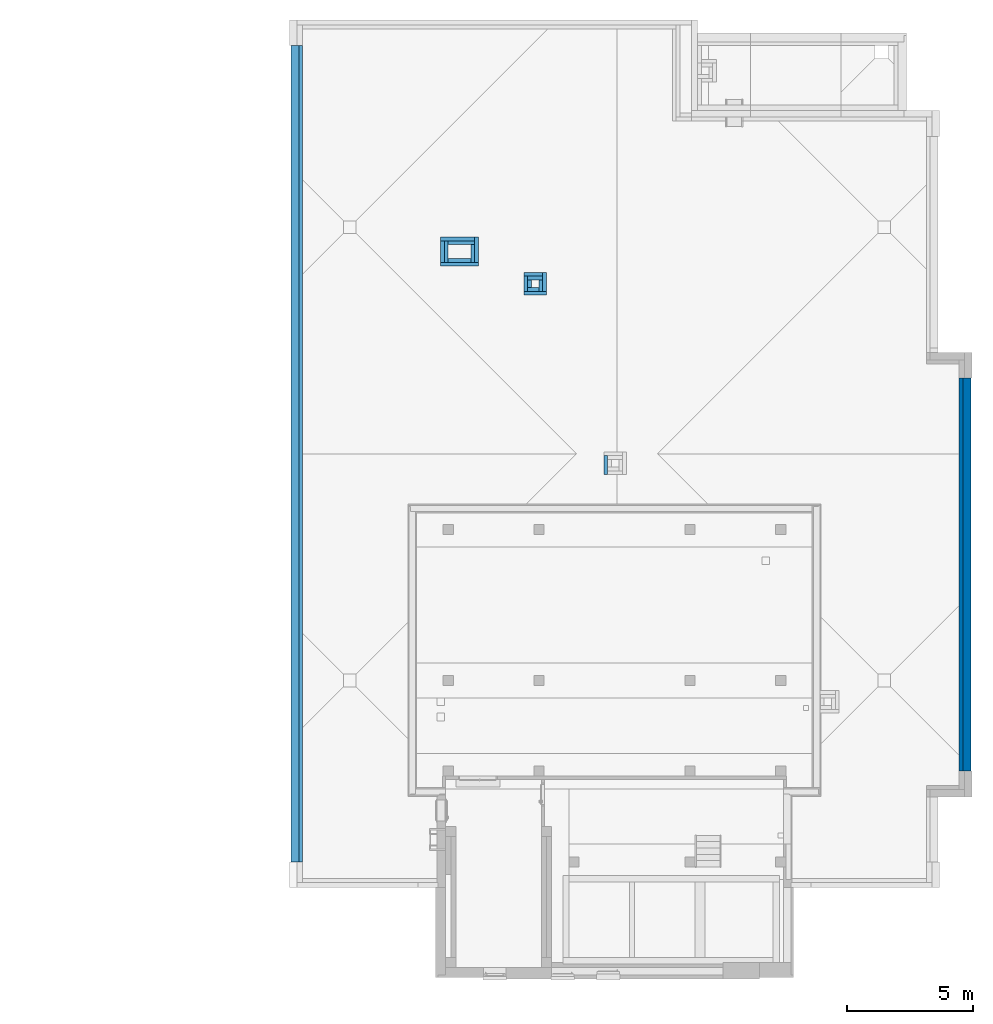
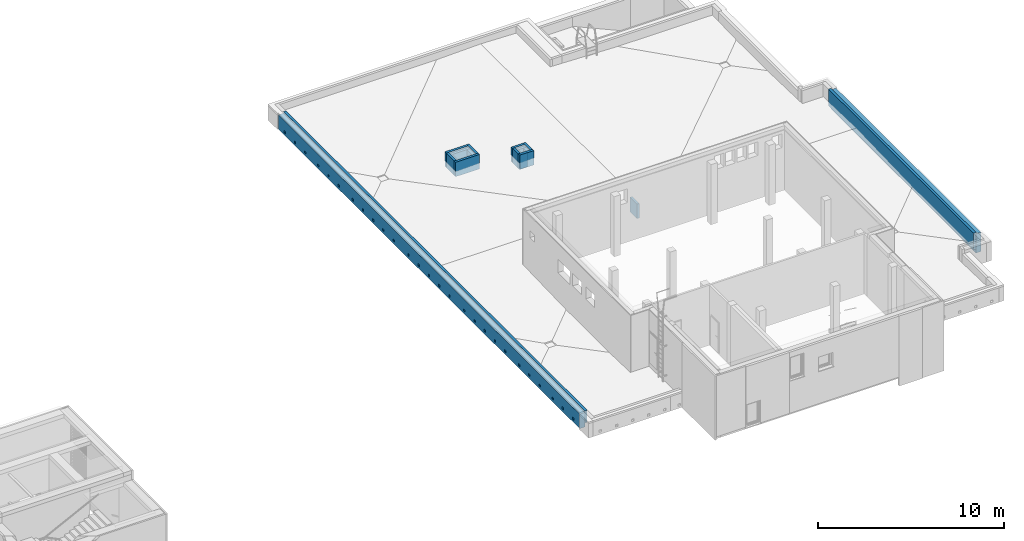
# One storey, part 6 of 17: 21 walls, 40 openings.
"""IFC4 building model written with IfcOpenShell, lengths in metres."""

from ifc_helpers import new_model, entity, si_unit, converted_unit, derived_unit, frame, frame_2d, origin, origin_with_axes, place, context, subcontext, project, spatial, polyline, rectangle, outline, extrude, material, layer, layer_set, layer_usage, element, save


model = new_model("IFC4")

# Units and contexts
model_context = context("Model", 3, precision=1e-05, world=origin())
body_context = subcontext(model_context, "Body", "Model", "MODEL_VIEW")
ifc_project = project(units=[si_unit("LENGTHUNIT", "METRE"), si_unit("AREAUNIT", "SQUARE_METRE"), si_unit("VOLUMEUNIT", "CUBIC_METRE"), si_unit("MASSUNIT", "GRAM", prefix="KILO"), converted_unit("PLANEANGLEUNIT", "DEGREE", entity("IfcPlaneAngleMeasure", 0.0174532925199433), si_unit("PLANEANGLEUNIT", "RADIAN"), dimensions=[0, 0, 0, 0, 0, 0, 0]), derived_unit("THERMALTRANSMITTANCEUNIT", [(si_unit("POWERUNIT", "WATT"), 1), (si_unit("THERMODYNAMICTEMPERATUREUNIT", "KELVIN"), -1), (si_unit("LENGTHUNIT", "METRE"), -2)]), derived_unit("VOLUMETRICFLOWRATEUNIT", [(si_unit("LENGTHUNIT", "METRE"), 3), (converted_unit("TIMEUNIT", "hour", entity("IfcTimeMeasure", 3600.0), si_unit("TIMEUNIT", "SECOND"), dimensions=[0, 0, 1, 0, 0, 0, 0]), -1), (si_unit("LENGTHUNIT", "METRE"), -1)])], contexts=[model_context])

# Site, building, storey
site_placement = place(None, origin())
site = spatial("IfcSite", under=ifc_project, at=site_placement, Name="3. ASŘ", CompositionType="ELEMENT")
building_placement = place(site_placement, origin())
building = spatial("IfcBuilding", under=site, at=building_placement, Name="Pavilon C", CompositionType="ELEMENT")
storey_placement = place(building_placement, frame((0.0, 0.0, 13.8)))
storey = spatial("IfcBuildingStorey", under=building, at=storey_placement, Name="Půdorys 5.NP", CompositionType="ELEMENT", Elevation=13.8)

# Walls
ifc_material_1 = material(Name="ZDIVO Z CDm")
ifc_layer_1 = layer(ifc_material_1, 0.150000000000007)
ifc_layer_set_1 = layer_set([ifc_layer_1])
ifc_layer_usage_1 = layer_usage(ifc_layer_set_1, "AXIS2", "POSITIVE", 0.0)
wall_1_placement = place(storey_placement, frame((34.35, 23.1, -0.1), z_axis=(0.0, 0.0, 1.0), x_axis=(0.0, -1.0, 0.0)))
element("IfcWall", 1, at=wall_1_placement, inside=storey, material=ifc_layer_usage_1, Name="ZDIVO Z CDm", context=body_context, shape_type="SweptSolid", body=[
    extrude(rectangle(XDim=0.450000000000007, YDim=0.150000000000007, at=frame_2d((0.225000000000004, 0.0750000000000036), x_axis=(1.0, 0.0))), origin_with_axes(), (0.0, 0.0, 1.0), 0.95),
])
ifc_material_2 = material(Name="ZDIVO Z CDm")
ifc_layer_2 = layer(ifc_material_2, 0.150000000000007)
ifc_layer_set_2 = layer_set([ifc_layer_2])
ifc_layer_usage_2 = layer_usage(ifc_layer_set_2, "AXIS2", "POSITIVE", 0.0)
wall_2_placement = place(storey_placement, frame((34.35, 22.8, -0.1), z_axis=(0.0, 0.0, 1.0), x_axis=(-1.0, 0.0, 0.0)))
element("IfcWall", 2, at=wall_2_placement, inside=storey, material=ifc_layer_usage_2, Name="ZDIVO Z CDm", context=body_context, shape_type="SweptSolid", body=[
    extrude(rectangle(XDim=0.450000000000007, YDim=0.150000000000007, at=frame_2d((0.225000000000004, 0.0750000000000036), x_axis=(1.0, 0.0))), origin_with_axes(), (0.0, 0.0, 1.0), 0.95),
])
ifc_material_3 = material(Name="ZDIVO Z CDm")
ifc_layer_3 = layer(ifc_material_3, 0.150000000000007)
ifc_layer_set_3 = layer_set([ifc_layer_3])
ifc_layer_usage_3 = layer_usage(ifc_layer_set_3, "AXIS2", "POSITIVE", 0.0)
wall_3_placement = place(storey_placement, frame((34.05, 22.8, -0.1), z_axis=(0.0, 0.0, 1.0), x_axis=(-4.85063840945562e-14, 1.0, 0.0)))
element("IfcWall", 3, at=wall_3_placement, inside=storey, material=ifc_layer_usage_3, Name="ZDIVO Z CDm", context=body_context, shape_type="SweptSolid", body=[
    extrude(rectangle(XDim=0.3, YDim=0.150000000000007, at=frame_2d((0.15, 0.0750000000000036), x_axis=(1.0, 0.0))), origin_with_axes(), (0.0, 0.0, 1.0), 0.95),
])
ifc_material_4 = material(Name="ZDIVO Z CDm")
ifc_layer_4 = layer(ifc_material_4, 0.150000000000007)
ifc_layer_set_4 = layer_set([ifc_layer_4])
ifc_layer_usage_4 = layer_usage(ifc_layer_set_4, "AXIS2", "POSITIVE", 0.0)
wall_4_placement = place(storey_placement, frame((33.9, 23.1, -0.1)))
element("IfcWall", 4, at=wall_4_placement, inside=storey, material=ifc_layer_usage_4, Name="ZDIVO Z CDm", context=body_context, shape_type="SweptSolid", body=[
    extrude(rectangle(XDim=0.600000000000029, YDim=0.150000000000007, at=frame_2d((0.300000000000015, 0.0750000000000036), x_axis=(1.0, 0.0))), origin_with_axes(), (0.0, 0.0, 1.0), 0.95),
])
ifc_material_5 = material(Name="ZDIVO Z CDm")
ifc_layer_5 = layer(ifc_material_5, 0.150000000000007)
ifc_layer_set_5 = layer_set([ifc_layer_5])
ifc_layer_usage_5 = layer_usage(ifc_layer_set_5, "AXIS2", "POSITIVE", 0.0)
wall_5_placement = place(storey_placement, frame((30.75, 24.5, -0.1)))
element("IfcWall", 5, at=wall_5_placement, inside=storey, material=ifc_layer_usage_5, Name="ZDIVO Z CDm", context=body_context, shape_type="SweptSolid", body=[
    extrude(rectangle(XDim=1.05000000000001, YDim=0.150000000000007, at=frame_2d((0.525000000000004, 0.0750000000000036), x_axis=(1.0, 0.0))), origin_with_axes(), (0.0, 0.0, 1.0), 0.95),
])
ifc_material_6 = material(Name="ZDIVO Z CDm")
ifc_layer_6 = layer(ifc_material_6, 0.150000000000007)
ifc_layer_set_6 = layer_set([ifc_layer_6])
ifc_layer_usage_6 = layer_usage(ifc_layer_set_6, "AXIS2", "POSITIVE", 0.0)
wall_6_placement = place(storey_placement, frame((31.65, 23.95, -0.1), z_axis=(0.0, 0.0, 1.0), x_axis=(-1.0, 0.0, 0.0)))
element("IfcWall", 6, at=wall_6_placement, inside=storey, material=ifc_layer_usage_6, Name="ZDIVO Z CDm", context=body_context, shape_type="SweptSolid", body=[
    extrude(rectangle(XDim=0.9, YDim=0.150000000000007, at=frame_2d((0.45, 0.0750000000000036), x_axis=(1.0, 0.0))), origin_with_axes(), (0.0, 0.0, 1.0), 0.95),
])
ifc_material_7 = material(Name="ZDIVO Z CDm")
ifc_layer_7 = layer(ifc_material_7, 0.150000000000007)
ifc_layer_set_7 = layer_set([ifc_layer_7])
ifc_layer_usage_7 = layer_usage(ifc_layer_set_7, "AXIS2", "POSITIVE", 0.0)
wall_7_placement = place(storey_placement, frame((30.75, 23.8, -0.1), z_axis=(0.0, 0.0, 1.0), x_axis=(0.0, 1.0, 0.0)))
element("IfcWall", 7, at=wall_7_placement, inside=storey, material=ifc_layer_usage_7, Name="ZDIVO Z CDm", context=body_context, shape_type="SweptSolid", body=[
    extrude(rectangle(XDim=0.85, YDim=0.150000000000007, at=frame_2d((0.425, 0.0750000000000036), x_axis=(1.0, 0.0))), origin_with_axes(), (0.0, 0.0, 1.0), 0.95),
])
ifc_material_8 = material(Name="ZDIVO Z CDm")
ifc_layer_8 = layer(ifc_material_8, 0.150000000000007)
ifc_layer_set_8 = layer_set([ifc_layer_8])
ifc_layer_usage_8 = layer_usage(ifc_layer_set_8, "AXIS2", "POSITIVE", 0.0)
wall_8_placement = place(storey_placement, frame((31.65, 24.5, -0.1), z_axis=(0.0, 0.0, 1.0), x_axis=(0.0, -1.0, 0.0)))
element("IfcWall", 8, at=wall_8_placement, inside=storey, material=ifc_layer_usage_8, Name="ZDIVO Z CDm", context=body_context, shape_type="SweptSolid", body=[
    extrude(rectangle(XDim=0.699999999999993, YDim=0.150000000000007, at=frame_2d((0.349999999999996, 0.0750000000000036), x_axis=(1.0, 0.0))), origin_with_axes(), (0.0, 0.0, 1.0), 0.95),
])

# Wall, openings
ifc_material_9 = material(Name="ZELEZOBETONOVÁ KCE")
ifc_layer_9 = layer(ifc_material_9, 0.32)
ifc_layer_set_9 = layer_set([ifc_layer_9])
ifc_layer_usage_9 = layer_usage(ifc_layer_set_9, "AXIS2", "POSITIVE", 0.0)
wall_9_placement = place(storey_placement, frame((24.5, 32.4, -0.1), z_axis=(0.0, 0.0, 1.0), x_axis=(-2.24566593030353e-16, -1.0, 0.0)))
wall_9 = element("IfcWall", 9, at=wall_9_placement, inside=storey, material=ifc_layer_usage_9, Name="ZELEZOBETONOVÁ KCE", context=body_context, shape_type="SweptSolid", body=[
    extrude(rectangle(XDim=32.4, YDim=0.32, at=frame_2d((16.2, 0.16), x_axis=(1.0, 0.0))), origin_with_axes(), (0.0, 0.0, 1.0), 0.95),
])
opening_1_placement = place(wall_9_placement, frame((31.775, 0.32, 0.15), z_axis=(0.0, -1.0, 0.0), x_axis=(0.0, 0.0, 1.0)))
element("IfcOpeningElement", 10, at=opening_1_placement, cuts=wall_9, Name="Prostup stěnou", ObjectType="Opening", context=body_context, shape_type="SweptSolid", body=[
    extrude(outline(polyline([(0.0, 0.15), (0.15, 0.15), (0.15, 0.0), (0.0, 0.0), (0.0, 0.15)])), origin_with_axes(), (0.0, 0.0, 1.0), 0.32),
])
opening_2_placement = place(wall_9_placement, frame((30.675, 0.32, 0.15), z_axis=(0.0, -1.0, 0.0), x_axis=(0.0, 0.0, 1.0)))
element("IfcOpeningElement", 11, at=opening_2_placement, cuts=wall_9, Name="Prostup stěnou", ObjectType="Opening", context=body_context, shape_type="SweptSolid", body=[
    extrude(outline(polyline([(0.0, 0.15), (0.15, 0.15), (0.15, 0.0), (0.0, 0.0), (0.0, 0.15)])), origin_with_axes(), (0.0, 0.0, 1.0), 0.32),
])
opening_3_placement = place(wall_9_placement, frame((29.575, 0.319999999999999, 0.15), z_axis=(0.0, -1.0, 0.0), x_axis=(0.0, 0.0, 1.0)))
element("IfcOpeningElement", 12, at=opening_3_placement, cuts=wall_9, Name="Prostup stěnou", ObjectType="Opening", context=body_context, shape_type="SweptSolid", body=[
    extrude(outline(polyline([(0.0, 0.15), (0.15, 0.15), (0.15, 0.0), (0.0, 0.0), (0.0, 0.15)])), origin_with_axes(), (0.0, 0.0, 1.0), 0.32),
])
opening_4_placement = place(wall_9_placement, frame((28.175, 0.319999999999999, 0.15), z_axis=(0.0, -1.0, 0.0), x_axis=(0.0, 0.0, 1.0)))
element("IfcOpeningElement", 13, at=opening_4_placement, cuts=wall_9, Name="Prostup stěnou", ObjectType="Opening", context=body_context, shape_type="SweptSolid", body=[
    extrude(outline(polyline([(0.0, 0.15), (0.15, 0.15), (0.15, 0.0), (0.0, 0.0), (0.0, 0.15)])), origin_with_axes(), (0.0, 0.0, 1.0), 0.32),
])
opening_5_placement = place(wall_9_placement, frame((27.075, 0.319999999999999, 0.15), z_axis=(0.0, -1.0, 0.0), x_axis=(0.0, 0.0, 1.0)))
element("IfcOpeningElement", 14, at=opening_5_placement, cuts=wall_9, Name="Prostup stěnou", ObjectType="Opening", context=body_context, shape_type="SweptSolid", body=[
    extrude(outline(polyline([(0.0, 0.15), (0.15, 0.15), (0.15, 0.0), (0.0, 0.0), (0.0, 0.15)])), origin_with_axes(), (0.0, 0.0, 1.0), 0.32),
])
opening_6_placement = place(wall_9_placement, frame((25.975, 0.319999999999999, 0.15), z_axis=(0.0, -1.0, 0.0), x_axis=(0.0, 0.0, 1.0)))
element("IfcOpeningElement", 15, at=opening_6_placement, cuts=wall_9, Name="Prostup stěnou", ObjectType="Opening", context=body_context, shape_type="SweptSolid", body=[
    extrude(outline(polyline([(0.0, 0.15), (0.15, 0.15), (0.15, 0.0), (0.0, 0.0), (0.0, 0.15)])), origin_with_axes(), (0.0, 0.0, 1.0), 0.32),
])
opening_7_placement = place(wall_9_placement, frame((24.475, 0.320000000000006, 0.15), z_axis=(0.0, -1.0, 0.0), x_axis=(0.0, 0.0, 1.0)))
element("IfcOpeningElement", 16, at=opening_7_placement, cuts=wall_9, Name="Prostup stěnou", ObjectType="Opening", context=body_context, shape_type="SweptSolid", body=[
    extrude(outline(polyline([(0.0, 0.15), (0.15, 0.15), (0.15, 0.0), (0.0, 0.0), (0.0, 0.15)])), origin_with_axes(), (0.0, 0.0, 1.0), 0.32),
])
opening_8_placement = place(wall_9_placement, frame((23.375, 0.320000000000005, 0.15), z_axis=(0.0, -1.0, 0.0), x_axis=(0.0, 0.0, 1.0)))
element("IfcOpeningElement", 17, at=opening_8_placement, cuts=wall_9, Name="Prostup stěnou", ObjectType="Opening", context=body_context, shape_type="SweptSolid", body=[
    extrude(outline(polyline([(0.0, 0.15), (0.15, 0.15), (0.15, 0.0), (0.0, 0.0), (0.0, 0.15)])), origin_with_axes(), (0.0, 0.0, 1.0), 0.32),
])
opening_9_placement = place(wall_9_placement, frame((22.275, 0.320000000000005, 0.15), z_axis=(0.0, -1.0, 0.0), x_axis=(0.0, 0.0, 1.0)))
element("IfcOpeningElement", 18, at=opening_9_placement, cuts=wall_9, Name="Prostup stěnou", ObjectType="Opening", context=body_context, shape_type="SweptSolid", body=[
    extrude(outline(polyline([(0.0, 0.15), (0.15, 0.15), (0.15, 0.0), (0.0, 0.0), (0.0, 0.15)])), origin_with_axes(), (0.0, 0.0, 1.0), 0.32),
])
opening_10_placement = place(wall_9_placement, frame((21.175, 0.320000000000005, 0.15), z_axis=(0.0, -1.0, 0.0), x_axis=(0.0, 0.0, 1.0)))
element("IfcOpeningElement", 19, at=opening_10_placement, cuts=wall_9, Name="Prostup stěnou", ObjectType="Opening", context=body_context, shape_type="SweptSolid", body=[
    extrude(outline(polyline([(0.0, 0.15), (0.15, 0.15), (0.15, 0.0), (0.0, 0.0), (0.0, 0.15)])), origin_with_axes(), (0.0, 0.0, 1.0), 0.32),
])
opening_11_placement = place(wall_9_placement, frame((20.075, 0.320000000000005, 0.15), z_axis=(0.0, -1.0, 0.0), x_axis=(0.0, 0.0, 1.0)))
element("IfcOpeningElement", 20, at=opening_11_placement, cuts=wall_9, Name="Prostup stěnou", ObjectType="Opening", context=body_context, shape_type="SweptSolid", body=[
    extrude(outline(polyline([(0.0, 0.15), (0.15, 0.15), (0.15, 0.0), (0.0, 0.0), (0.0, 0.15)])), origin_with_axes(), (0.0, 0.0, 1.0), 0.32),
])
opening_12_placement = place(wall_9_placement, frame((18.475, 0.320000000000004, 0.15), z_axis=(0.0, -1.0, 0.0), x_axis=(0.0, 0.0, 1.0)))
element("IfcOpeningElement", 21, at=opening_12_placement, cuts=wall_9, Name="Prostup stěnou", ObjectType="Opening", context=body_context, shape_type="SweptSolid", body=[
    extrude(outline(polyline([(0.0, 0.15), (0.15, 0.15), (0.15, 0.0), (0.0, 0.0), (0.0, 0.15)])), origin_with_axes(), (0.0, 0.0, 1.0), 0.32),
])
opening_13_placement = place(wall_9_placement, frame((17.375, 0.320000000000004, 0.15), z_axis=(0.0, -1.0, 0.0), x_axis=(0.0, 0.0, 1.0)))
element("IfcOpeningElement", 22, at=opening_13_placement, cuts=wall_9, Name="Prostup stěnou", ObjectType="Opening", context=body_context, shape_type="SweptSolid", body=[
    extrude(outline(polyline([(0.0, 0.15), (0.15, 0.15), (0.15, 0.0), (0.0, 0.0), (0.0, 0.15)])), origin_with_axes(), (0.0, 0.0, 1.0), 0.32),
])
opening_14_placement = place(wall_9_placement, frame((16.275, 0.320000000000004, 0.15), z_axis=(0.0, -1.0, 0.0), x_axis=(0.0, 0.0, 1.0)))
element("IfcOpeningElement", 23, at=opening_14_placement, cuts=wall_9, Name="Prostup stěnou", ObjectType="Opening", context=body_context, shape_type="SweptSolid", body=[
    extrude(outline(polyline([(0.0, 0.15), (0.15, 0.15), (0.15, 0.0), (0.0, 0.0), (0.0, 0.15)])), origin_with_axes(), (0.0, 0.0, 1.0), 0.32),
])
opening_15_placement = place(wall_9_placement, frame((15.175, 0.320000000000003, 0.15), z_axis=(0.0, -1.0, 0.0), x_axis=(0.0, 0.0, 1.0)))
element("IfcOpeningElement", 24, at=opening_15_placement, cuts=wall_9, Name="Prostup stěnou", ObjectType="Opening", context=body_context, shape_type="SweptSolid", body=[
    extrude(outline(polyline([(0.0, 0.15), (0.15, 0.15), (0.15, 0.0), (0.0, 0.0), (0.0, 0.15)])), origin_with_axes(), (0.0, 0.0, 1.0), 0.32),
])
opening_16_placement = place(wall_9_placement, frame((14.075, 0.320000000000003, 0.15), z_axis=(0.0, -1.0, 0.0), x_axis=(0.0, 0.0, 1.0)))
element("IfcOpeningElement", 25, at=opening_16_placement, cuts=wall_9, Name="Prostup stěnou", ObjectType="Opening", context=body_context, shape_type="SweptSolid", body=[
    extrude(outline(polyline([(0.0, 0.15), (0.15, 0.15), (0.15, 0.0), (0.0, 0.0), (0.0, 0.15)])), origin_with_axes(), (0.0, 0.0, 1.0), 0.32),
])
opening_17_placement = place(wall_9_placement, frame((12.475, 0.320000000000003, 0.15), z_axis=(0.0, -1.0, 0.0), x_axis=(0.0, 0.0, 1.0)))
element("IfcOpeningElement", 26, at=opening_17_placement, cuts=wall_9, Name="Prostup stěnou", ObjectType="Opening", context=body_context, shape_type="SweptSolid", body=[
    extrude(outline(polyline([(0.0, 0.15), (0.15, 0.15), (0.15, 0.0), (0.0, 0.0), (0.0, 0.15)])), origin_with_axes(), (0.0, 0.0, 1.0), 0.32),
])
opening_18_placement = place(wall_9_placement, frame((2.975, 0.320000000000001, 0.15), z_axis=(0.0, -1.0, 0.0), x_axis=(0.0, 0.0, 1.0)))
element("IfcOpeningElement", 27, at=opening_18_placement, cuts=wall_9, Name="Prostup stěnou", ObjectType="Opening", context=body_context, shape_type="SweptSolid", body=[
    extrude(outline(polyline([(0.0, 0.15), (0.15, 0.15), (0.15, 0.0), (0.0, 0.0), (0.0, 0.15)])), origin_with_axes(), (0.0, 0.0, 1.0), 0.32),
])
opening_19_placement = place(wall_9_placement, frame((4.375, 0.319999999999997, 0.15), z_axis=(0.0, -1.0, 0.0), x_axis=(0.0, 0.0, 1.0)))
element("IfcOpeningElement", 28, at=opening_19_placement, cuts=wall_9, Name="Prostup stěnou", ObjectType="Opening", context=body_context, shape_type="SweptSolid", body=[
    extrude(outline(polyline([(0.0, 0.15), (0.15, 0.15), (0.15, 0.0), (0.0, 0.0), (0.0, 0.15)])), origin_with_axes(), (0.0, 0.0, 1.0), 0.32),
])
opening_20_placement = place(wall_9_placement, frame((5.475, 0.319999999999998, 0.15), z_axis=(0.0, -1.0, 0.0), x_axis=(0.0, 0.0, 1.0)))
element("IfcOpeningElement", 29, at=opening_20_placement, cuts=wall_9, Name="Prostup stěnou", ObjectType="Opening", context=body_context, shape_type="SweptSolid", body=[
    extrude(outline(polyline([(0.0, 0.15), (0.15, 0.15), (0.15, 0.0), (0.0, 0.0), (0.0, 0.15)])), origin_with_axes(), (0.0, 0.0, 1.0), 0.32),
])
opening_21_placement = place(wall_9_placement, frame((6.575, 0.319999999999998, 0.15), z_axis=(0.0, -1.0, 0.0), x_axis=(0.0, 0.0, 1.0)))
element("IfcOpeningElement", 30, at=opening_21_placement, cuts=wall_9, Name="Prostup stěnou", ObjectType="Opening", context=body_context, shape_type="SweptSolid", body=[
    extrude(outline(polyline([(0.0, 0.15), (0.15, 0.15), (0.15, 0.0), (0.0, 0.0), (0.0, 0.15)])), origin_with_axes(), (0.0, 0.0, 1.0), 0.32),
])
opening_22_placement = place(wall_9_placement, frame((8.075, 0.320000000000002, 0.15), z_axis=(0.0, -1.0, 0.0), x_axis=(0.0, 0.0, 1.0)))
element("IfcOpeningElement", 31, at=opening_22_placement, cuts=wall_9, Name="Prostup stěnou", ObjectType="Opening", context=body_context, shape_type="SweptSolid", body=[
    extrude(outline(polyline([(0.0, 0.15), (0.15, 0.15), (0.15, 0.0), (0.0, 0.0), (0.0, 0.15)])), origin_with_axes(), (0.0, 0.0, 1.0), 0.32),
])
opening_23_placement = place(wall_9_placement, frame((9.175, 0.320000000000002, 0.15), z_axis=(0.0, -1.0, 0.0), x_axis=(0.0, 0.0, 1.0)))
element("IfcOpeningElement", 32, at=opening_23_placement, cuts=wall_9, Name="Prostup stěnou", ObjectType="Opening", context=body_context, shape_type="SweptSolid", body=[
    extrude(outline(polyline([(0.0, 0.15), (0.15, 0.15), (0.15, 0.0), (0.0, 0.0), (0.0, 0.15)])), origin_with_axes(), (0.0, 0.0, 1.0), 0.32),
])
opening_24_placement = place(wall_9_placement, frame((10.275, 0.320000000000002, 0.15), z_axis=(0.0, -1.0, 0.0), x_axis=(0.0, 0.0, 1.0)))
element("IfcOpeningElement", 33, at=opening_24_placement, cuts=wall_9, Name="Prostup stěnou", ObjectType="Opening", context=body_context, shape_type="SweptSolid", body=[
    extrude(outline(polyline([(0.0, 0.15), (0.15, 0.15), (0.15, 0.0), (0.0, 0.0), (0.0, 0.15)])), origin_with_axes(), (0.0, 0.0, 1.0), 0.32),
])
opening_25_placement = place(wall_9_placement, frame((11.375, 0.320000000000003, 0.15), z_axis=(0.0, -1.0, 0.0), x_axis=(0.0, 0.0, 1.0)))
element("IfcOpeningElement", 34, at=opening_25_placement, cuts=wall_9, Name="Prostup stěnou", ObjectType="Opening", context=body_context, shape_type="SweptSolid", body=[
    extrude(outline(polyline([(0.0, 0.15), (0.15, 0.15), (0.15, 0.0), (0.0, 0.0), (0.0, 0.15)])), origin_with_axes(), (0.0, 0.0, 1.0), 0.32),
])
opening_26_placement = place(wall_9_placement, frame((0.775000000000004, 0.32, 0.15), z_axis=(3.5527136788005e-16, -1.0, 0.0), x_axis=(0.0, 0.0, 1.0)))
element("IfcOpeningElement", 35, at=opening_26_placement, cuts=wall_9, Name="Prostup stěnou", ObjectType="Opening", context=body_context, shape_type="SweptSolid", body=[
    extrude(outline(polyline([(0.0, 0.15), (0.15, 0.15), (0.15, 0.0), (0.0, 0.0), (0.0, 0.15)])), origin_with_axes(), (0.0, 0.0, 1.0), 0.32),
])
opening_27_placement = place(wall_9_placement, frame((1.875, 0.32, 0.15), z_axis=(0.0, -1.0, 0.0), x_axis=(0.0, 0.0, 1.0)))
element("IfcOpeningElement", 36, at=opening_27_placement, cuts=wall_9, Name="Prostup stěnou", ObjectType="Opening", context=body_context, shape_type="SweptSolid", body=[
    extrude(outline(polyline([(0.0, 0.15), (0.15, 0.15), (0.15, 0.0), (0.0, 0.0), (0.0, 0.15)])), origin_with_axes(), (0.0, 0.0, 1.0), 0.32),
])

ifc_material_10 = material(Name="ZELEZOBETONOVÁ KCE")
ifc_layer_10 = layer(ifc_material_10, 0.32)
ifc_layer_set_10 = layer_set([ifc_layer_10])
ifc_layer_usage_10 = layer_usage(ifc_layer_set_10, "AXIS2", "POSITIVE", 0.0)
wall_10_placement = place(storey_placement, frame((51.5, 3.59999999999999, -0.1), z_axis=(0.0, 0.0, 1.0), x_axis=(0.0, 1.0, 0.0)))
wall_10 = element("IfcWall", 37, at=wall_10_placement, inside=storey, material=ifc_layer_usage_10, Name="ZELEZOBETONOVÁ KCE", context=body_context, shape_type="SweptSolid", body=[
    extrude(rectangle(XDim=15.6, YDim=0.32, at=frame_2d((7.8, 0.16), x_axis=(1.0, 0.0))), origin_with_axes(), (0.0, 0.0, 1.0), 1.25),
])
opening_28_placement = place(wall_10_placement, frame((10.325, 0.0, 0.15), z_axis=(0.0, 1.0, 0.0), x_axis=(0.0, 0.0, 1.0)))
element("IfcOpeningElement", 38, at=opening_28_placement, cuts=wall_10, Name="Prostup stěnou", ObjectType="Opening", context=body_context, shape_type="SweptSolid", body=[
    extrude(outline(polyline([(0.0, 0.15), (0.15, 0.15), (0.15, 0.0), (0.0, 0.0), (0.0, 0.15)])), origin_with_axes(), (0.0, 0.0, 1.0), 0.32),
])
opening_29_placement = place(wall_10_placement, frame((8.725, 0.0, 0.15), z_axis=(0.0, 1.0, 0.0), x_axis=(0.0, 0.0, 1.0)))
element("IfcOpeningElement", 39, at=opening_29_placement, cuts=wall_10, Name="Prostup stěnou", ObjectType="Opening", context=body_context, shape_type="SweptSolid", body=[
    extrude(outline(polyline([(0.0, 0.15), (0.15, 0.15), (0.15, 0.0), (0.0, 0.0), (0.0, 0.15)])), origin_with_axes(), (0.0, 0.0, 1.0), 0.32),
])
opening_30_placement = place(wall_10_placement, frame((7.625, 0.0, 0.15), z_axis=(0.0, 1.0, 0.0), x_axis=(0.0, 0.0, 1.0)))
element("IfcOpeningElement", 40, at=opening_30_placement, cuts=wall_10, Name="Prostup stěnou", ObjectType="Opening", context=body_context, shape_type="SweptSolid", body=[
    extrude(outline(polyline([(0.0, 0.15), (0.15, 0.15), (0.15, 0.0), (0.0, 0.0), (0.0, 0.15)])), origin_with_axes(), (0.0, 0.0, 1.0), 0.32),
])
opening_31_placement = place(wall_10_placement, frame((6.525, 0.0, 0.15), z_axis=(0.0, 1.0, 0.0), x_axis=(0.0, 0.0, 1.0)))
element("IfcOpeningElement", 41, at=opening_31_placement, cuts=wall_10, Name="Prostup stěnou", ObjectType="Opening", context=body_context, shape_type="SweptSolid", body=[
    extrude(outline(polyline([(0.0, 0.15), (0.15, 0.15), (0.15, 0.0), (0.0, 0.0), (0.0, 0.15)])), origin_with_axes(), (0.0, 0.0, 1.0), 0.32),
])
opening_32_placement = place(wall_10_placement, frame((5.425, 0.0, 0.15), z_axis=(0.0, 1.0, 0.0), x_axis=(0.0, 0.0, 1.0)))
element("IfcOpeningElement", 42, at=opening_32_placement, cuts=wall_10, Name="Prostup stěnou", ObjectType="Opening", context=body_context, shape_type="SweptSolid", body=[
    extrude(outline(polyline([(0.0, 0.15), (0.15, 0.15), (0.15, 0.0), (0.0, 0.0), (0.0, 0.15)])), origin_with_axes(), (0.0, 0.0, 1.0), 0.32),
])
opening_33_placement = place(wall_10_placement, frame((4.325, 0.0, 0.15), z_axis=(0.0, 1.0, 0.0), x_axis=(0.0, 0.0, 1.0)))
element("IfcOpeningElement", 43, at=opening_33_placement, cuts=wall_10, Name="Prostup stěnou", ObjectType="Opening", context=body_context, shape_type="SweptSolid", body=[
    extrude(outline(polyline([(0.0, 0.15), (0.15, 0.15), (0.15, 0.0), (0.0, 0.0), (0.0, 0.15)])), origin_with_axes(), (0.0, 0.0, 1.0), 0.32),
])
opening_34_placement = place(wall_10_placement, frame((2.825, 0.0, 0.15), z_axis=(0.0, 1.0, 0.0), x_axis=(0.0, 0.0, 1.0)))
element("IfcOpeningElement", 44, at=opening_34_placement, cuts=wall_10, Name="Prostup stěnou", ObjectType="Opening", context=body_context, shape_type="SweptSolid", body=[
    extrude(outline(polyline([(0.0, 0.15), (0.15, 0.15), (0.15, 0.0), (0.0, 0.0), (0.0, 0.15)])), origin_with_axes(), (0.0, 0.0, 1.0), 0.32),
])
opening_35_placement = place(wall_10_placement, frame((1.725, 0.0, 0.15), z_axis=(0.0, 1.0, 0.0), x_axis=(0.0, 0.0, 1.0)))
element("IfcOpeningElement", 45, at=opening_35_placement, cuts=wall_10, Name="Prostup stěnou", ObjectType="Opening", context=body_context, shape_type="SweptSolid", body=[
    extrude(outline(polyline([(0.0, 0.15), (0.15, 0.15), (0.15, 0.0), (0.0, 0.0), (0.0, 0.15)])), origin_with_axes(), (0.0, 0.0, 1.0), 0.32),
])
opening_36_placement = place(wall_10_placement, frame((0.625000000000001, 0.0, 0.15), z_axis=(0.0, 1.0, 0.0), x_axis=(0.0, 0.0, 1.0)))
element("IfcOpeningElement", 46, at=opening_36_placement, cuts=wall_10, Name="Prostup stěnou", ObjectType="Opening", context=body_context, shape_type="SweptSolid", body=[
    extrude(outline(polyline([(0.0, 0.15), (0.15, 0.15), (0.15, 0.0), (0.0, 0.0), (0.0, 0.15)])), origin_with_axes(), (0.0, 0.0, 1.0), 0.32),
])
opening_37_placement = place(wall_10_placement, frame((13.625, 0.0, 0.15), z_axis=(0.0, 1.0, 0.0), x_axis=(0.0, 0.0, 1.0)))
element("IfcOpeningElement", 47, at=opening_37_placement, cuts=wall_10, Name="Prostup stěnou", ObjectType="Opening", context=body_context, shape_type="SweptSolid", body=[
    extrude(outline(polyline([(0.0, 0.15), (0.15, 0.15), (0.15, 0.0), (0.0, 0.0), (0.0, 0.15)])), origin_with_axes(), (0.0, 0.0, 1.0), 0.32),
])
opening_38_placement = place(wall_10_placement, frame((12.525, 0.0, 0.15), z_axis=(0.0, 1.0, 0.0), x_axis=(0.0, 0.0, 1.0)))
element("IfcOpeningElement", 48, at=opening_38_placement, cuts=wall_10, Name="Prostup stěnou", ObjectType="Opening", context=body_context, shape_type="SweptSolid", body=[
    extrude(outline(polyline([(0.0, 0.15), (0.15, 0.15), (0.15, 0.0), (0.0, 0.0), (0.0, 0.15)])), origin_with_axes(), (0.0, 0.0, 1.0), 0.32),
])
opening_39_placement = place(wall_10_placement, frame((11.425, 0.0, 0.15), z_axis=(0.0, 1.0, 0.0), x_axis=(0.0, 0.0, 1.0)))
element("IfcOpeningElement", 49, at=opening_39_placement, cuts=wall_10, Name="Prostup stěnou", ObjectType="Opening", context=body_context, shape_type="SweptSolid", body=[
    extrude(outline(polyline([(0.0, 0.15), (0.15, 0.15), (0.15, 0.0), (0.0, 0.0), (0.0, 0.15)])), origin_with_axes(), (0.0, 0.0, 1.0), 0.32),
])
opening_40_placement = place(wall_10_placement, frame((14.725, 0.0, 0.15), z_axis=(0.0, 1.0, 0.0), x_axis=(0.0, 0.0, 1.0)))
element("IfcOpeningElement", 50, at=opening_40_placement, cuts=wall_10, Name="Prostup stěnou", ObjectType="Opening", context=body_context, shape_type="SweptSolid", body=[
    extrude(outline(polyline([(0.0, 0.15), (0.15, 0.15), (0.15, 0.0), (0.0, 0.0), (0.0, 0.15)])), origin_with_axes(), (0.0, 0.0, 1.0), 0.32),
])

# Walls
ifc_material_11 = material(Name="MINERÁLNÍ VATA")
ifc_layer_11 = layer(ifc_material_11, 0.15)
ifc_layer_set_11 = layer_set([ifc_layer_11])
ifc_layer_usage_11 = layer_usage(ifc_layer_set_11, "AXIS2", "POSITIVE", 0.0)
wall_11_placement = place(storey_placement, frame((51.18, 3.59999999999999, 0.16), z_axis=(0.0, 0.0, 1.0), x_axis=(0.0, 1.0, 0.0)))
element("IfcWall", 51, at=wall_11_placement, inside=storey, material=ifc_layer_usage_11, Name="MINERÁLNÍ VATA", context=body_context, shape_type="SweptSolid", body=[
    extrude(rectangle(XDim=15.6, YDim=0.15, at=frame_2d((7.8, 0.075), x_axis=(1.0, 0.0))), origin_with_axes(), (0.0, 0.0, 1.0), 1.09),
])
ifc_material_12 = material(Name="MINERÁLNÍ VATA")
ifc_layer_12 = layer(ifc_material_12, 0.15)
ifc_layer_set_12 = layer_set([ifc_layer_12])
ifc_layer_usage_12 = layer_usage(ifc_layer_set_12, "AXIS2", "POSITIVE", 0.0)
wall_12_placement = place(storey_placement, frame((24.82, 32.4, 0.16), z_axis=(0.0, 0.0, 1.0), x_axis=(-1.12283296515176e-16, -1.0, 0.0)))
element("IfcWall", 52, at=wall_12_placement, inside=storey, material=ifc_layer_usage_12, Name="MINERÁLNÍ VATA", context=body_context, shape_type="SweptSolid", body=[
    extrude(rectangle(XDim=32.4, YDim=0.15, at=frame_2d((16.2, 0.075), x_axis=(1.0, 0.0))), origin_with_axes(), (0.0, 0.0, 1.0), 0.790000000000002),
])
ifc_material_13 = material(Name="MINERÁLNÍ VATA")
ifc_layer_13 = layer(ifc_material_13, 0.15)
ifc_layer_set_13 = layer_set([ifc_layer_13])
ifc_layer_usage_13 = layer_usage(ifc_layer_set_13, "AXIS2", "POSITIVE", 0.0)
wall_13_placement = place(storey_placement, frame((31.95, 23.8, 0.0), z_axis=(0.0, 0.0, 1.0), x_axis=(-1.0, 0.0, 0.0)))
element("IfcWall", 53, at=wall_13_placement, inside=storey, material=ifc_layer_usage_13, Name="MINERÁLNÍ VATA", context=body_context, shape_type="SweptSolid", body=[
    extrude(rectangle(XDim=1.50000000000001, YDim=0.15, at=frame_2d((0.750000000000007, 0.075), x_axis=(1.0, 0.0))), origin_with_axes(), (0.0, 0.0, 1.0), 0.95),
])
ifc_material_14 = material(Name="MINERÁLNÍ VATA")
ifc_layer_14 = layer(ifc_material_14, 0.15)
ifc_layer_set_14 = layer_set([ifc_layer_14])
ifc_layer_usage_14 = layer_usage(ifc_layer_set_14, "AXIS2", "POSITIVE", 0.0)
wall_14_placement = place(storey_placement, frame((31.8, 24.8, 0.0), z_axis=(0.0, 0.0, 1.0), x_axis=(0.0, -1.0, 0.0)))
element("IfcWall", 54, at=wall_14_placement, inside=storey, material=ifc_layer_usage_14, Name="MINERÁLNÍ VATA", context=body_context, shape_type="SweptSolid", body=[
    extrude(rectangle(XDim=1.0, YDim=0.15, at=frame_2d((0.5, 0.075), x_axis=(1.0, 0.0))), origin_with_axes(), (0.0, 0.0, 1.0), 0.95),
])
ifc_material_15 = material(Name="MINERÁLNÍ VATA")
ifc_layer_15 = layer(ifc_material_15, 0.15)
ifc_layer_set_15 = layer_set([ifc_layer_15])
ifc_layer_usage_15 = layer_usage(ifc_layer_set_15, "AXIS2", "POSITIVE", 0.0)
wall_15_placement = place(storey_placement, frame((30.45, 24.65, 0.0)))
element("IfcWall", 55, at=wall_15_placement, inside=storey, material=ifc_layer_usage_15, Name="MINERÁLNÍ VATA", context=body_context, shape_type="SweptSolid", body=[
    extrude(rectangle(XDim=1.35000000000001, YDim=0.15, at=frame_2d((0.675000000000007, 0.075), x_axis=(1.0, 0.0))), origin_with_axes(), (0.0, 0.0, 1.0), 0.95),
])
ifc_material_16 = material(Name="MINERÁLNÍ VATA")
ifc_layer_16 = layer(ifc_material_16, 0.15)
ifc_layer_set_16 = layer_set([ifc_layer_16])
ifc_layer_usage_16 = layer_usage(ifc_layer_set_16, "AXIS2", "POSITIVE", 0.0)
wall_16_placement = place(storey_placement, frame((30.6, 23.8, 0.0), z_axis=(0.0, 0.0, 1.0), x_axis=(0.0, 1.0, 0.0)))
element("IfcWall", 56, at=wall_16_placement, inside=storey, material=ifc_layer_usage_16, Name="MINERÁLNÍ VATA", context=body_context, shape_type="SweptSolid", body=[
    extrude(rectangle(XDim=0.85, YDim=0.15, at=frame_2d((0.425, 0.075), x_axis=(1.0, 0.0))), origin_with_axes(), (0.0, 0.0, 1.0), 0.95),
])
ifc_material_17 = material(Name="MINERÁLNÍ VATA")
ifc_layer_17 = layer(ifc_material_17, 0.15)
ifc_layer_set_17 = layer_set([ifc_layer_17])
ifc_layer_usage_17 = layer_usage(ifc_layer_set_17, "AXIS2", "POSITIVE", 0.0)
wall_17_placement = place(storey_placement, frame((34.65, 22.65, 0.0), z_axis=(0.0, 0.0, 1.0), x_axis=(-1.0, 0.0, 0.0)))
element("IfcWall", 57, at=wall_17_placement, inside=storey, material=ifc_layer_usage_17, Name="MINERÁLNÍ VATA", context=body_context, shape_type="SweptSolid", body=[
    extrude(rectangle(XDim=0.900000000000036, YDim=0.15, at=frame_2d((0.450000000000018, 0.075), x_axis=(1.0, 0.0))), origin_with_axes(), (0.0, 0.0, 1.0), 0.95),
])
ifc_material_18 = material(Name="MINERÁLNÍ VATA")
ifc_layer_18 = layer(ifc_material_18, 0.15)
ifc_layer_set_18 = layer_set([ifc_layer_18])
ifc_layer_usage_18 = layer_usage(ifc_layer_set_18, "AXIS2", "POSITIVE", 0.0)
wall_18_placement = place(storey_placement, frame((34.5, 23.4, 0.0), z_axis=(0.0, 0.0, 1.0), x_axis=(0.0, -1.0, 0.0)))
element("IfcWall", 58, at=wall_18_placement, inside=storey, material=ifc_layer_usage_18, Name="MINERÁLNÍ VATA", context=body_context, shape_type="SweptSolid", body=[
    extrude(rectangle(XDim=0.750000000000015, YDim=0.15, at=frame_2d((0.375000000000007, 0.075), x_axis=(1.0, 0.0))), origin_with_axes(), (0.0, 0.0, 1.0), 0.95),
])
ifc_material_19 = material(Name="MINERÁLNÍ VATA")
ifc_layer_19 = layer(ifc_material_19, 0.15)
ifc_layer_set_19 = layer_set([ifc_layer_19])
ifc_layer_usage_19 = layer_usage(ifc_layer_set_19, "AXIS2", "POSITIVE", 0.0)
wall_19_placement = place(storey_placement, frame((33.75, 23.25, 0.0)))
element("IfcWall", 59, at=wall_19_placement, inside=storey, material=ifc_layer_usage_19, Name="MINERÁLNÍ VATA", context=body_context, shape_type="SweptSolid", body=[
    extrude(rectangle(XDim=0.750000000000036, YDim=0.15, at=frame_2d((0.375000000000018, 0.075), x_axis=(1.0, 0.0))), origin_with_axes(), (0.0, 0.0, 1.0), 0.95),
])
ifc_material_20 = material(Name="MINERÁLNÍ VATA")
ifc_layer_20 = layer(ifc_material_20, 0.15)
ifc_layer_set_20 = layer_set([ifc_layer_20])
ifc_layer_usage_20 = layer_usage(ifc_layer_set_20, "AXIS2", "POSITIVE", 0.0)
wall_20_placement = place(storey_placement, frame((33.9, 22.65, 0.0), z_axis=(0.0, 0.0, 1.0), x_axis=(0.0, 1.0, 0.0)))
element("IfcWall", 60, at=wall_20_placement, inside=storey, material=ifc_layer_usage_20, Name="MINERÁLNÍ VATA", context=body_context, shape_type="SweptSolid", body=[
    extrude(rectangle(XDim=0.600000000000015, YDim=0.15, at=frame_2d((0.300000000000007, 0.075), x_axis=(1.0, 0.0))), origin_with_axes(), (0.0, 0.0, 1.0), 0.95),
])
ifc_material_21 = material(Name="MINERÁLNÍ VATA")
ifc_layer_21 = layer(ifc_material_21, 0.15)
ifc_layer_set_21 = layer_set([ifc_layer_21])
ifc_layer_usage_21 = layer_usage(ifc_layer_set_21, "AXIS2", "POSITIVE", 0.0)
wall_21_placement = place(storey_placement, frame((37.075, 15.375, 0.0), z_axis=(0.0, 0.0, 1.0), x_axis=(0.0, 1.0, 0.0)))
element("IfcWall", 61, at=wall_21_placement, inside=storey, material=ifc_layer_usage_21, Name="MINERÁLNÍ VATA", context=body_context, shape_type="SweptSolid", body=[
    extrude(rectangle(XDim=0.750000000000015, YDim=0.15, at=frame_2d((0.375000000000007, 0.075), x_axis=(1.0, 0.0))), origin_with_axes(), (0.0, 0.0, 1.0), 0.95),
])

save(model, "model.ifc")
